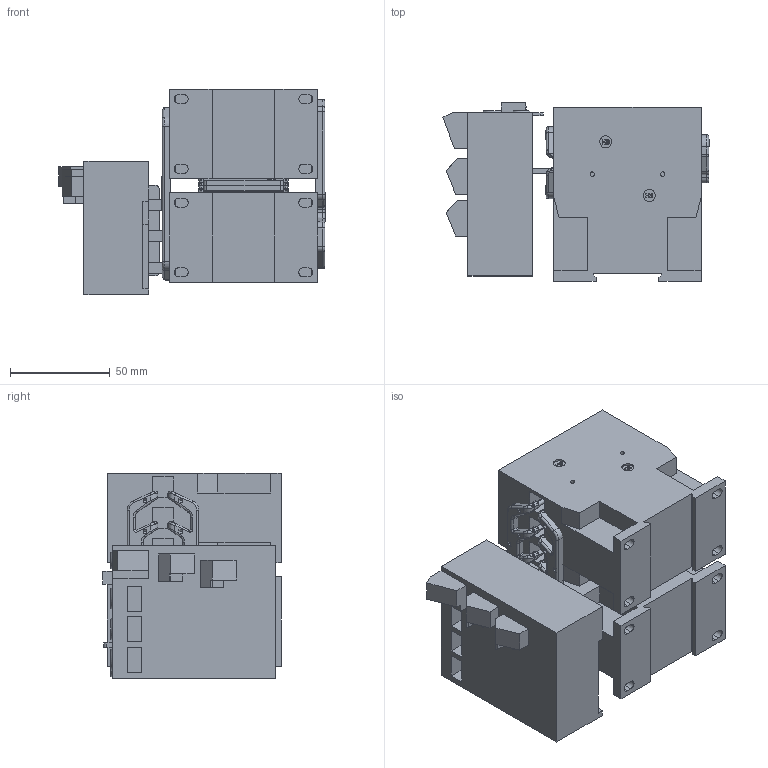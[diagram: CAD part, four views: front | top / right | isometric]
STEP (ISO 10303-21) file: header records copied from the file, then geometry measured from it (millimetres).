
FILE_DESCRIPTION (( 'STEP AP203' ), '1' );
FILE_NAME ('K3WU-24_32_40+U3_42.STEP', '2014-03-11T09:08:40', ( '' ), ( '' ), 'SwSTEP 2.0', 'SolidWorks 2014', '' );
FILE_SCHEMA (( 'CONFIG_CONTROL_DESIGN' ));
Length unit declared in the file: millimetre
Products named in the file (17): 65149; 47924; 65038; 65037; U3_42; 65042; K3WU-24_32_40+U3_42; 65040; K3-24_32_40; 28468; Imported44; 65041; 47922; 65039; Imported45
Assembly tree (19 placements, depth 3):
  K3WU-24_32_40+U3_42
    K3-24_32_40  x2
    47924
      28468
      Imported44
      47922
      Imported45
    65037
      65037
      65042
      65040  x2
    65038  x2
      65038
      65041
      65039
      65149
    U3_42
Bounding box: 133.7 x 89.7 x 103.3 mm (x, y, z)
Volume: 686220.5 mm3; surface area: 127768.5 mm2
Topology: 19 solids, 19 shells, 3024 faces, 7896 edges, 5097 vertices
Faces by surface type: plane 1417, cylinder 858, bspline 573, torus 151, cone 25
Entity records: 83433 total; most frequent: CARTESIAN_POINT 30914, ORIENTED_EDGE 11238, DIRECTION 9441, EDGE_CURVE 5619, VERTEX_POINT 3631, LINE 3313, VECTOR 3313, AXIS2_PLACEMENT_3D 3064
